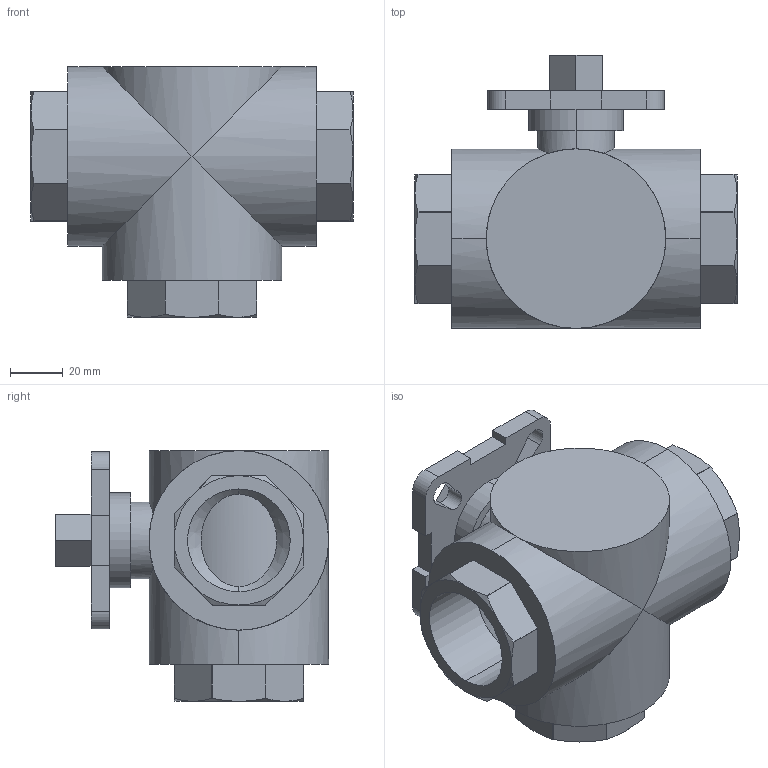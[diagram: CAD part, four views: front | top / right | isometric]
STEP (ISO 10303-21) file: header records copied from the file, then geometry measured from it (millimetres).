
FILE_DESCRIPTION (( 'STEP AP203' ), '1' );
FILE_NAME ('04.622I0320FVPB0.STEP', '2018-10-05T13:39:53', ( '' ), ( '' ), 'SwSTEP 2.0', 'SolidWorks 2014', '' );
FILE_SCHEMA (( 'CONFIG_CONTROL_DESIGN' ));
Length unit declared in the file: millimetre
Products named in the file (1): 04.622I0320FVPB0
Bounding box: 122 x 103.5 x 95 mm (x, y, z)
Volume: 452599.5 mm3; surface area: 61475.3 mm2
Topology: 1 solids, 1 shells, 159 faces, 405 edges, 257 vertices
Faces by surface type: plane 67, cylinder 62, cone 30
Entity records: 5458 total; most frequent: CARTESIAN_POINT 1554, ORIENTED_EDGE 810, DIRECTION 787, EDGE_CURVE 405, AXIS2_PLACEMENT_3D 290, VERTEX_POINT 257, VECTOR 207, LINE 207
